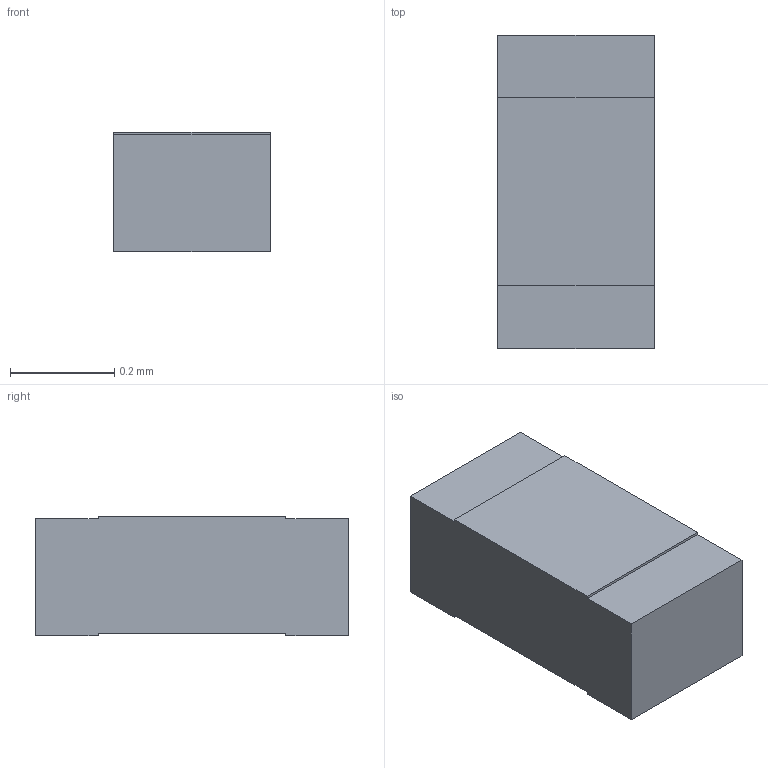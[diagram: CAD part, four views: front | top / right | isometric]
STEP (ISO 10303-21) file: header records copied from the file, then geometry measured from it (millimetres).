
FILE_DESCRIPTION(/* description */ (''),/* implementation_level */ '2;1');
FILE_NAME(/* name */ '\\wsse03\home\msaalfrank\Konstruktion\tknuschke\0201.stp',/* time_stamp */ '2020-11-09T12:48:21+01:00',/* author */ ('msaalfrank'),/* organization */ (''),/* preprocessor_version */ 'ST-DEVELOPER v16.5',/* originating_system */ 'Autodesk Inventor 2017',/* authorisation */ '');
FILE_SCHEMA (('AUTOMOTIVE_DESIGN { 1 0 10303 214 3 1 1 }'));
Length unit declared in the file: millimetre
Products named in the file (1): 0201
Bounding box: 0.3 x 0.6 x 0.23 mm (x, y, z)
Volume: 0 mm3; surface area: 0.8 mm2
Topology: 1 solids, 1 shells, 14 faces, 36 edges, 24 vertices
Faces by surface type: plane 14
Entity records: 481 total; most frequent: CARTESIAN_POINT 75, ORIENTED_EDGE 72, DIRECTION 66, LINE 36, VECTOR 36, EDGE_CURVE 36, VERTEX_POINT 24, AXIS2_PLACEMENT_3D 15
